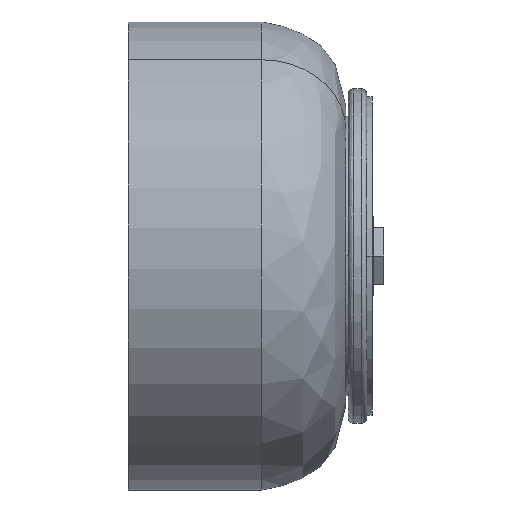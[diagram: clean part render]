
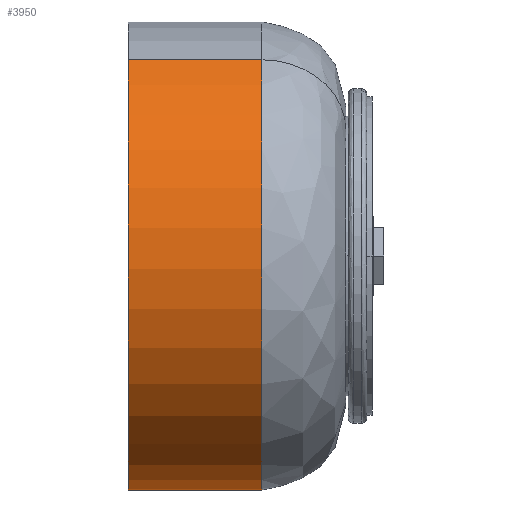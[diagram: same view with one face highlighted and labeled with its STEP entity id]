
A CAD part, left-side view. The second image highlights one B-rep face of the part: STEP entity #3950.
In plain terms, the highlighted cylindrical face has radius 88.9 mm (diameter 177.8 mm), a partial arc.
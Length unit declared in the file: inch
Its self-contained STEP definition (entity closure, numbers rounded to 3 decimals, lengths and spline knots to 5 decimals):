
#27 = DIRECTION ( 'NONE',  ( 0., -1., 0. ) ) ;
#196 = VECTOR ( 'NONE', #22384, 39.37008 ) ;
#532 = DIRECTION ( 'NONE',  ( 0., 0., -1. ) ) ;
#2037 = VERTEX_POINT ( 'NONE', #39310 ) ;
#3303 = DIRECTION ( 'NONE',  ( 0., -1., 0. ) ) ;
#3950 = ADVANCED_FACE ( 'NONE', ( #27704 ), #24262, .T. ) ;
#5839 = AXIS2_PLACEMENT_3D ( 'NONE', #9645, #3303, #21861 ) ;
#7050 = DIRECTION ( 'NONE',  ( 0., 1., 0. ) ) ;
#7179 = CARTESIAN_POINT ( 'NONE',  ( 0., -3.25, -3.5 ) ) ;
#8410 = EDGE_LOOP ( 'NONE', ( #11930, #16832, #19129, #40161 ) ) ;
#8769 = LINE ( 'NONE', #27259, #34005 ) ;
#8772 = CIRCLE ( 'NONE', #10079, 3.5 ) ;
#9472 = VERTEX_POINT ( 'NONE', #21864 ) ;
#9645 = CARTESIAN_POINT ( 'NONE',  ( 0., -1.25, 0. ) ) ;
#10079 = AXIS2_PLACEMENT_3D ( 'NONE', #19066, #7050, #532 ) ;
#11810 = DIRECTION ( 'NONE',  ( 0., -1., 0. ) ) ;
#11930 = ORIENTED_EDGE ( 'NONE', *, *, #18918, .T. ) ;
#15550 = EDGE_CURVE ( 'NONE', #2037, #17447, #30927, .T. ) ;
#16832 = ORIENTED_EDGE ( 'NONE', *, *, #15550, .T. ) ;
#17447 = VERTEX_POINT ( 'NONE', #36516 ) ;
#18918 = EDGE_CURVE ( 'NONE', #9472, #2037, #37089, .T. ) ;
#19066 = CARTESIAN_POINT ( 'NONE',  ( 0., -3.25, 0. ) ) ;
#19129 = ORIENTED_EDGE ( 'NONE', *, *, #34020, .T. ) ;
#21861 = DIRECTION ( 'NONE',  ( 0., 0., -1. ) ) ;
#21864 = CARTESIAN_POINT ( 'NONE',  ( 0., -1.25, -3.5 ) ) ;
#22384 = DIRECTION ( 'NONE',  ( 0., -1., 0. ) ) ;
#24262 = CYLINDRICAL_SURFACE ( 'NONE', #34508, 3.5 ) ;
#27259 = CARTESIAN_POINT ( 'NONE',  ( 0., 0., -3.5 ) ) ;
#27492 = DIRECTION ( 'NONE',  ( 0., 0., -1. ) ) ;
#27704 = FACE_OUTER_BOUND ( 'NONE', #8410, .T. ) ;
#28470 = CARTESIAN_POINT ( 'NONE',  ( 0., 0., 3.5 ) ) ;
#30361 = CARTESIAN_POINT ( 'NONE',  ( 0., 0., 0. ) ) ;
#30927 = LINE ( 'NONE', #28470, #196 ) ;
#34005 = VECTOR ( 'NONE', #11810, 39.37008 ) ;
#34020 = EDGE_CURVE ( 'NONE', #17447, #34230, #8772, .T. ) ;
#34230 = VERTEX_POINT ( 'NONE', #7179 ) ;
#34508 = AXIS2_PLACEMENT_3D ( 'NONE', #30361, #27, #27492 ) ;
#36516 = CARTESIAN_POINT ( 'NONE',  ( 0., -3.25, 3.5 ) ) ;
#37089 = CIRCLE ( 'NONE', #5839, 3.5 ) ;
#38846 = EDGE_CURVE ( 'NONE', #9472, #34230, #8769, .T. ) ;
#39310 = CARTESIAN_POINT ( 'NONE',  ( 0., -1.25, 3.5 ) ) ;
#40161 = ORIENTED_EDGE ( 'NONE', *, *, #38846, .F. ) ;
